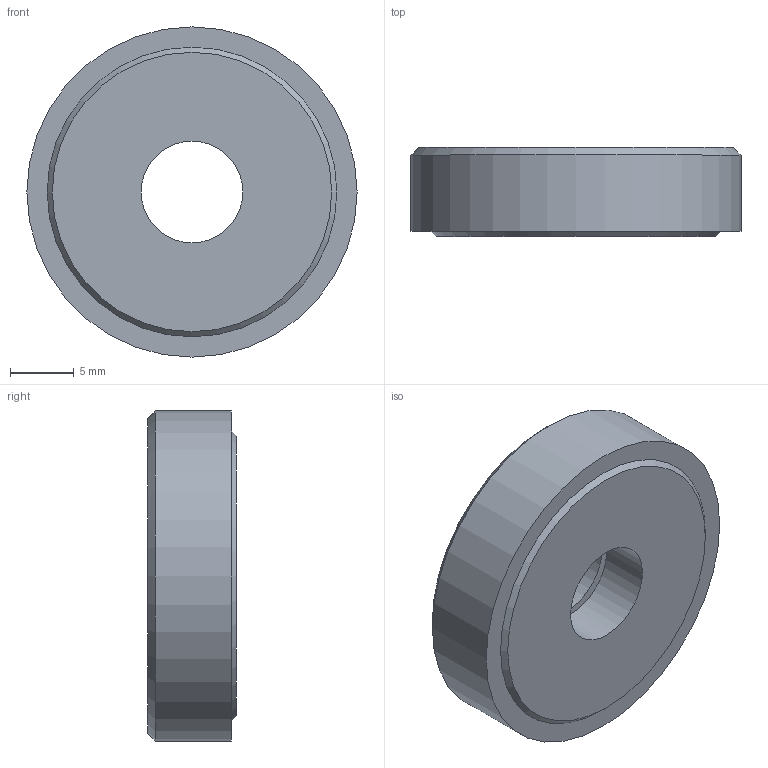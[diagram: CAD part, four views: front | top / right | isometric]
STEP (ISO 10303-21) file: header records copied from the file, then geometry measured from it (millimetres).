
FILE_DESCRIPTION( ( 'STEP AP203' ), '1' );
FILE_NAME( 'C:/Temp/Ganter_Step_05_03_2020/data/3_2/gn_6342/gn_6342_ni/Stainless Steel Washer with axial friction bearing GN 6342-NI-26-8.stp', '2020-03-13T05:36:55', ( 'License CC BY-ND 4.0' ), ( 'CADENAS' ), ' ', 'PARTsolutions', ' ' );
FILE_SCHEMA( ( 'CONFIG_CONTROL_DESIGN' ) );
Length unit declared in the file: millimetre
Products named in the file (1): _Stainless Steel Washer with axial friction bearing GN 6342-NI-26-8
Bounding box: 26 x 7 x 26 mm (x, y, z)
Volume: 3264 mm3; surface area: 1790.8 mm2
Topology: 1 solids, 1 shells, 11 faces, 17 edges, 11 vertices
Faces by surface type: plane 5, cylinder 4, cone 2
Full cylindrical faces by diameter (mm): 8 x2, 12 x1, 26 x1
Entity records: 272 total; most frequent: DIRECTION 46, CARTESIAN_POINT 34, AXIS2_PLACEMENT_3D 23, EDGE_LOOP 22, ORIENTED_EDGE 22, FACE_OUTER_BOUND 15, ADVANCED_FACE 11, EDGE_CURVE 11
